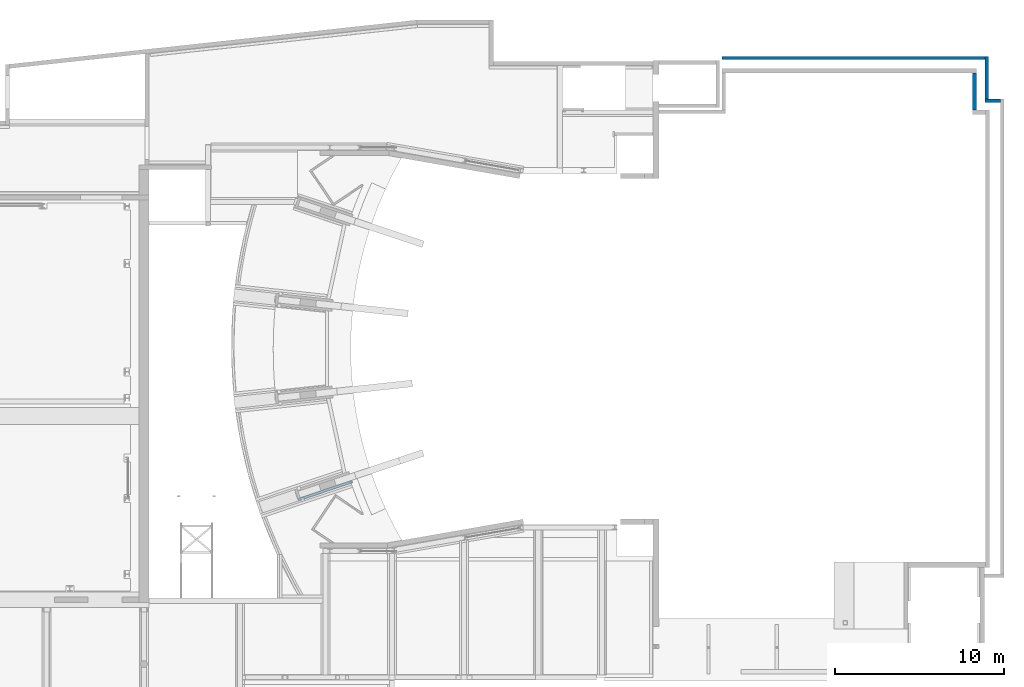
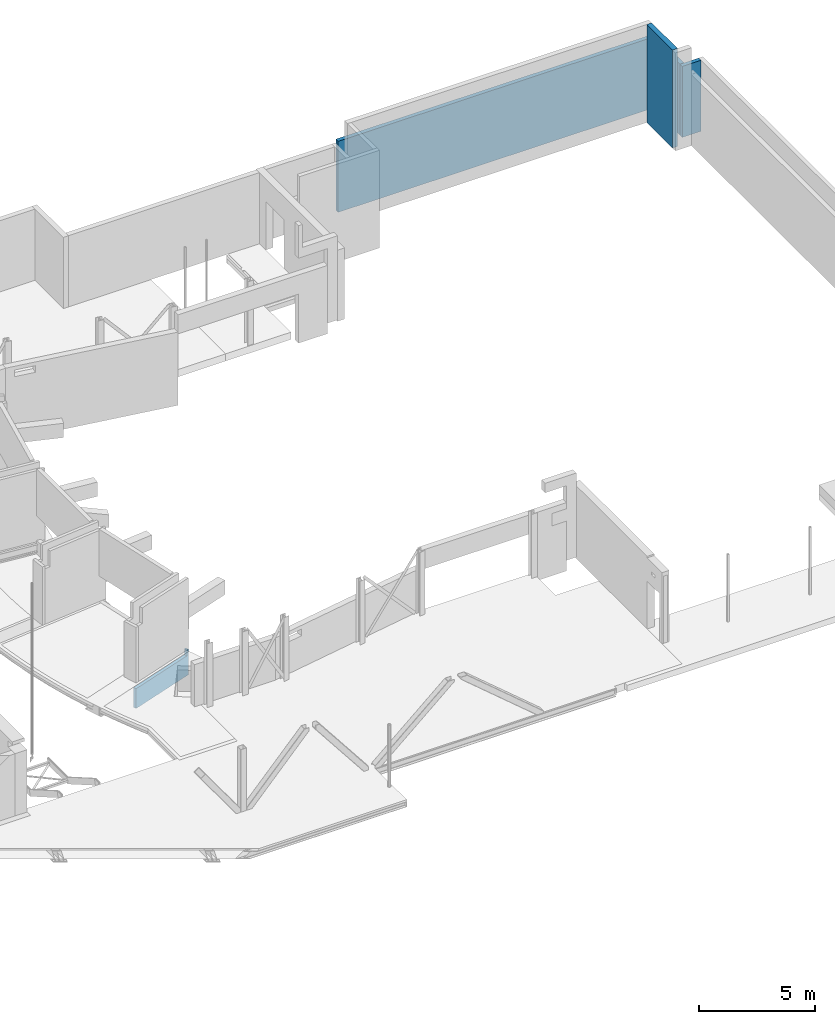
# One storey, part 29 of 37: 5 walls.
"""IFC2X3 building model written with IfcOpenShell, lengths in millimetres."""

from ifc_helpers import new_model, entity, si_unit, converted_unit, derived_unit, direction, frame, frame_2d, origin, place, context, subcontext, project, spatial, polyline, rectangle, extrude, clip, bounded_halfspace, faceted_brep, material, layer, layer_set, layer_usage, type_object, element, save


model = new_model("IFC2X3")

# Units and contexts
model_context = context("Model", 3, precision=0.01, world=origin(), true_north=direction((6.12303176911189e-17, 1.0)))
body_context = subcontext(model_context, "Body", "Model", "MODEL_VIEW")
ifc_project = project(units=[si_unit("LENGTHUNIT", "METRE", prefix="MILLI"), si_unit("AREAUNIT", "SQUARE_METRE", prefix="MILLI"), si_unit("VOLUMEUNIT", "CUBIC_METRE"), converted_unit("PLANEANGLEUNIT", "DEGREE", entity("IfcRatioMeasure", 0.0174532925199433), si_unit("PLANEANGLEUNIT", "RADIAN"), dimensions=[0, 0, 0, 0, 0, 0, 0]), si_unit("MASSUNIT", "GRAM", prefix="KILO"), derived_unit("MASSDENSITYUNIT", [(si_unit("MASSUNIT", "GRAM", prefix="KILO"), 1), (si_unit("LENGTHUNIT", "METRE"), -3)]), derived_unit("MOMENTOFINERTIAUNIT", [(si_unit("LENGTHUNIT", "METRE"), 4)]), si_unit("TIMEUNIT", "SECOND"), si_unit("FREQUENCYUNIT", "HERTZ"), si_unit("THERMODYNAMICTEMPERATUREUNIT", "DEGREE_CELSIUS"), derived_unit("THERMALTRANSMITTANCEUNIT", [(si_unit("MASSUNIT", "GRAM", prefix="KILO"), 1), (si_unit("THERMODYNAMICTEMPERATUREUNIT", "KELVIN"), -1), (si_unit("TIMEUNIT", "SECOND"), -3)]), derived_unit("VOLUMETRICFLOWRATEUNIT", [(si_unit("LENGTHUNIT", "METRE"), 3), (si_unit("TIMEUNIT", "SECOND"), -1)]), si_unit("ELECTRICCURRENTUNIT", "AMPERE"), si_unit("ELECTRICVOLTAGEUNIT", "VOLT"), si_unit("POWERUNIT", "WATT"), si_unit("FORCEUNIT", "NEWTON", prefix="KILO"), si_unit("ILLUMINANCEUNIT", "LUX"), si_unit("LUMINOUSFLUXUNIT", "LUMEN"), si_unit("LUMINOUSINTENSITYUNIT", "CANDELA"), derived_unit("USERDEFINED", [(si_unit("MASSUNIT", "GRAM", prefix="KILO"), -1), (si_unit("LENGTHUNIT", "METRE"), -2), (si_unit("TIMEUNIT", "SECOND"), 3), (si_unit("LUMINOUSFLUXUNIT", "LUMEN"), 1)]), derived_unit("LINEARVELOCITYUNIT", [(si_unit("LENGTHUNIT", "METRE"), 1), (si_unit("TIMEUNIT", "SECOND"), -1)]), si_unit("PRESSUREUNIT", "PASCAL"), derived_unit("USERDEFINED", [(si_unit("LENGTHUNIT", "METRE"), -2), (si_unit("MASSUNIT", "GRAM", prefix="KILO"), 1), (si_unit("TIMEUNIT", "SECOND"), -2)]), derived_unit("LINEARFORCEUNIT", [(si_unit("MASSUNIT", "GRAM", prefix="KILO"), 1), (si_unit("LENGTHUNIT", "METRE"), 1), (si_unit("TIMEUNIT", "SECOND"), -2), (si_unit("LENGTHUNIT", "METRE"), -1)]), derived_unit("PLANARFORCEUNIT", [(si_unit("MASSUNIT", "GRAM", prefix="KILO"), 1), (si_unit("LENGTHUNIT", "METRE"), 1), (si_unit("TIMEUNIT", "SECOND"), -2), (si_unit("LENGTHUNIT", "METRE"), -2)])], contexts=[model_context])

# Site, building, storey
site_placement = place(None, origin())
site = spatial("IfcSite", under=ifc_project, at=site_placement, Name="Theater aan de Parade", CompositionType="ELEMENT")
building_placement = place(site_placement, origin())
building = spatial("IfcBuilding", under=site, at=building_placement, Name="Theater aan de Parade", CompositionType="ELEMENT")
storey_placement = place(building_placement, frame((0.0, 0.0, 5020.0)))
storey = spatial("IfcBuildingStorey", under=building, at=storey_placement, Name="01 eerste verdieping", CompositionType="ELEMENT", Elevation=5020.0)

# Walls
ifc_material_1 = material(Name="00_PBT_MAT_beton t.p.g._C30/37")
ifc_layer_1 = layer(ifc_material_1, 250.0)
ifc_layer_set_1 = layer_set([ifc_layer_1], Name="Basic Wall:28_PBT_WA_beton t.p.g._d=250_C30/37")
ifc_layer_usage_1 = layer_usage(ifc_layer_set_1, "AXIS2", "NEGATIVE", 125.0)
wall_type_1 = type_object("IfcWallType", Name="Basic Wall:28_PBT_WA_beton t.p.g._d=250_C30/37", PredefinedType="STANDARD", material=ifc_layer_set_1)
wall_1_placement = place(storey_placement, frame((86430.1683175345, 48822.0, -90.0), z_axis=(0.0, 0.0, 1.0), x_axis=(0.0, -1.0, 0.0)))
element("IfcWallStandardCase", 1, at=wall_1_placement, inside=storey, type_object=wall_type_1, material=ifc_layer_usage_1, Name="Basic Wall:28_PBT_WA_beton t.p.g._d=250_C30/37", ObjectType="Basic Wall:28_PBT_WA_beton t.p.g._d=250_C30/37", context=body_context, shape_type="SweptSolid", body=[
    extrude(rectangle(XDim=2210.12765932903, YDim=250.000000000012, at=frame_2d((1105.06382966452, -5.11590769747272e-13), x_axis=(-1.0, 0.0))), origin(), (0.0, 0.0, 1.0), 5130.0),
])
ifc_material_2 = material(Name="00_PBT_MAT_beton prefab")
ifc_layer_2 = layer(ifc_material_2, 200.0)
ifc_layer_set_2 = layer_set([ifc_layer_2], Name="Basic Wall:28_PBT_WA_beton prefab_d=200")
ifc_layer_usage_2 = layer_usage(ifc_layer_set_2, "AXIS2", "POSITIVE", -100.0)
wall_type_2 = type_object("IfcWallType", Name="Basic Wall:28_PBT_WA_beton prefab_d=200", PredefinedType="STANDARD", material=ifc_layer_set_2)
wall_2_placement = place(storey_placement, frame((87986.0, 47170.8149236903, -80.0), z_axis=(0.0, 0.0, 1.0), x_axis=(-1.0, 0.0, 0.0)))
element("IfcWallStandardCase", 2, at=wall_2_placement, inside=storey, type_object=wall_type_2, material=ifc_layer_usage_2, Name="Basic Wall:28_PBT_WA_beton prefab_d=200", ObjectType="Basic Wall:28_PBT_WA_beton prefab_d=200", context=body_context, shape_type="Clipping", body=[
    clip(clip(extrude(rectangle(XDim=931.00000000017, YDim=200.000000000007, at=frame_2d((465.500000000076, -1.11555209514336e-12), x_axis=(-1.0, 0.0))), origin(), (0.0, 0.0, 1.0), 3720.0), bounded_halfspace(frame((931.0, -100.0, 0.0), z_axis=(0.0, 0.0, 1.0), x_axis=(0.0, 1.0, 0.0)), True, frame((931.0, -100.0, 0.0), z_axis=(0.0, 0.0, 1.0), x_axis=(0.0, 1.0, 0.0)), polyline([(0.0, 0.0), (200.0, 0.0), (200.0, 931.0), (0.0, 931.0), (0.0, 0.0)]))), bounded_halfspace(frame((0.0, -100.0, 3720.0), z_axis=(0.0, 0.0, -1.0), x_axis=(0.0, 1.0, 0.0)), True, frame((0.0, -100.0, 3720.0), z_axis=(0.0, 0.0, -1.0), x_axis=(0.0, 1.0, 0.0)), polyline([(0.0, 0.0), (200.0, 0.0), (200.0, 931.0), (0.0, 931.0), (0.0, 0.0)]))),
])
ifc_layer_usage_3 = layer_usage(ifc_layer_set_2, "AXIS2", "NEGATIVE", 100.0)
wall_3_placement = place(storey_placement, frame((87155.0, 49802.0, -90.0), z_axis=(0.0, 0.0, 1.0), x_axis=(0.0, -1.0, 0.0)))
element("IfcWallStandardCase", 3, at=wall_3_placement, inside=storey, type_object=wall_type_2, material=ifc_layer_usage_3, Name="Basic Wall:28_PBT_WA_beton prefab_d=200", ObjectType="Basic Wall:28_PBT_WA_beton prefab_d=200", context=body_context, shape_type="SweptSolid", body=[
    extrude(rectangle(XDim=2531.18507630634, YDim=199.999999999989, at=frame_2d((1265.59253815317, 6.68620714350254e-12), x_axis=(-1.0, 0.0))), origin(), (0.0, 0.0, 1.0), 3740.0),
])
ifc_layer_usage_4 = layer_usage(ifc_layer_set_2, "AXIS2", "POSITIVE", -100.0)
wall_4_placement = place(storey_placement, frame((87055.0, 49702.0, -80.0), z_axis=(0.0, 0.0, 1.0), x_axis=(-1.0, 0.0, 0.0)))
element("IfcWallStandardCase", 4, at=wall_4_placement, inside=storey, type_object=wall_type_2, material=ifc_layer_usage_4, Name="Basic Wall:28_PBT_WA_beton prefab_d=200", ObjectType="Basic Wall:28_PBT_WA_beton prefab_d=200", context=body_context, shape_type="Clipping", body=[
    clip(clip(extrude(rectangle(XDim=15598.582194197, YDim=200.000000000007, at=frame_2d((7799.2910970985, -1.96109795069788e-12), x_axis=(-1.0, 0.0))), origin(), (0.0, 0.0, 1.0), 3720.0), bounded_halfspace(frame((15598.582194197, -100.0, 0.0), z_axis=(0.0, 0.0, 1.0), x_axis=(0.0, 1.0, 0.0)), True, frame((15598.582194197, -100.0, 0.0), z_axis=(0.0, 0.0, 1.0), x_axis=(0.0, 1.0, 0.0)), polyline([(0.0, 0.0), (200.0, 0.0), (200.0, 15598.582194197), (0.0, 15598.582194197), (0.0, 0.0)]))), bounded_halfspace(frame((0.0, -100.0, 3720.0), z_axis=(0.0, 0.0, -1.0), x_axis=(0.0, 1.0, 0.0)), True, frame((0.0, -100.0, 3720.0), z_axis=(0.0, 0.0, -1.0), x_axis=(0.0, 1.0, 0.0)), polyline([(0.0, 0.0), (200.0, 0.0), (200.0, 15598.5821941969), (0.0, 15598.582194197), (0.0, 0.0)]))),
])
ifc_layer_3 = layer(ifc_material_1, 150.0)
ifc_layer_set_3 = layer_set([ifc_layer_3], Name="Basic Wall:28_PBT_WA_beton t.p.g._d=150_C30/37")
wall_type_3 = type_object("IfcWallType", Name="Basic Wall:28_PBT_WA_beton t.p.g._d=150_C30/37", PredefinedType="STANDARD", material=ifc_layer_set_3)
wall_5_placement = place(storey_placement, frame((49518.6069977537, 24575.8040888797, -1420.0), z_axis=(0.0, 0.0, 1.0), x_axis=(-0.948323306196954, -0.31730569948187, 0.0)))
element("IfcWall", 5, at=wall_5_placement, inside=storey, type_object=wall_type_3, Name="Basic Wall:28_PBT_WA_beton t.p.g._d=150_C30/37", ObjectType="Basic Wall:28_PBT_WA_beton t.p.g._d=150_C30/37", context=body_context, shape_type="Brep", body=[
    faceted_brep([(100.611600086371, -75.0, 1340.0), (0.0, -75.0, 1340.0), (0.0, -75.0, 0.0), (3388.77237749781, -75.0, 0.0), (3388.77237749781, -75.0, 1040.0), (985.90491937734, -75.0, 1040.0), (100.61160008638, -75.0, 1040.0), (3388.77237749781, 75.0, 865.0), (3388.77237749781, 75.0, 0.0), (0.0, 75.0, 0.0), (0.0, 75.0, 1340.0), (99.1645819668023, 75.0, 1340.0), (99.1645819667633, 75.0, 1040.0), (3388.77237749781, 75.0, 1040.0), (100.004661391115, 0.00112452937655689, 1340.0), (100.00465999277, 0.00126948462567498, 1040.0)], [[[0, 1, 2, 3, 4, 5, 6]], [[7, 8, 9, 10, 11, 12, 13]], [[3, 2, 9, 8]], [[4, 3, 8, 7, 13]], [[1, 0, 14, 11, 10]], [[2, 1, 10, 9]], [[13, 12, 15, 6, 5, 4]], [[6, 14, 0]], [[14, 6, 15]], [[15, 12, 11]], [[15, 11, 14]]]),
])

save(model, "model.ifc")
